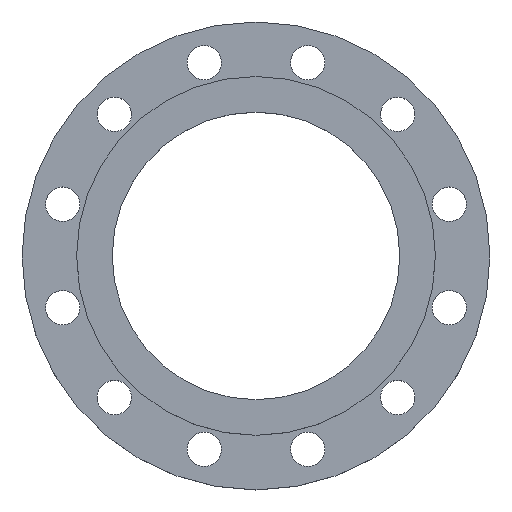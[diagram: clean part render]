
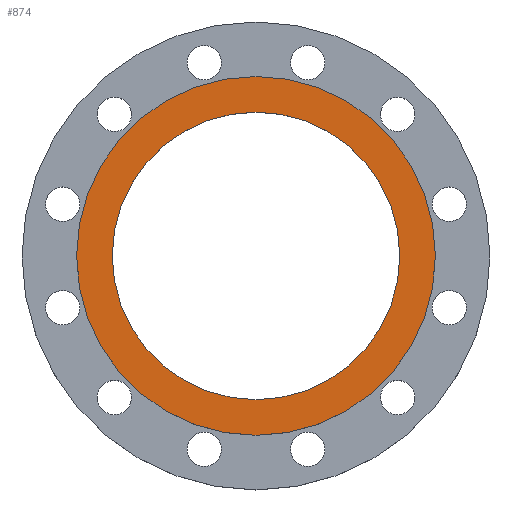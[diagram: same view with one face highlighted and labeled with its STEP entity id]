
A CAD part, top view. The second image highlights one B-rep face of the part: STEP entity #874.
In plain terms, the highlighted planar face has unit normal (0, 0, 1).
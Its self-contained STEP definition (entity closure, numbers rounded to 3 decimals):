
#1 = AXIS2_PLACEMENT_3D ( 'NONE', #372, #371, #370 ) ;
#130 = CARTESIAN_POINT ( 'NONE',  ( 172.5, 0., 30. ) ) ;
#178 = CIRCLE ( 'NONE', #180, 172.5 ) ;
#180 = AXIS2_PLACEMENT_3D ( 'NONE', #383, #380, #379 ) ;
#193 = CIRCLE ( 'NONE', #1, 138.25 ) ;
#209 = CARTESIAN_POINT ( 'NONE',  ( 138.25, 0., 30. ) ) ;
#237 = CIRCLE ( 'NONE', #271, 172.5 ) ;
#271 = AXIS2_PLACEMENT_3D ( 'NONE', #451, #450, #449 ) ;
#290 = DIRECTION ( 'NONE',  ( -1., 0., 0. ) ) ;
#291 = DIRECTION ( 'NONE',  ( 0., 0., -1. ) ) ;
#292 = CARTESIAN_POINT ( 'NONE',  ( 138.25, 0., 30. ) ) ;
#294 = PLANE ( 'NONE',  #308 ) ;
#295 = FACE_BOUND ( 'NONE', #1111, .T. ) ;
#296 = FACE_OUTER_BOUND ( 'NONE', #1055, .T. ) ;
#308 = AXIS2_PLACEMENT_3D ( 'NONE', #292, #291, #290 ) ;
#370 = DIRECTION ( 'NONE',  ( -1., 0., 0. ) ) ;
#371 = DIRECTION ( 'NONE',  ( 0., 0., -1. ) ) ;
#372 = CARTESIAN_POINT ( 'NONE',  ( 0., 0., 30. ) ) ;
#379 = DIRECTION ( 'NONE',  ( -1., 0., 0. ) ) ;
#380 = DIRECTION ( 'NONE',  ( 0., 0., -1. ) ) ;
#383 = CARTESIAN_POINT ( 'NONE',  ( 0., 0., 30. ) ) ;
#423 = CARTESIAN_POINT ( 'NONE',  ( -172.5, 0., 30. ) ) ;
#440 = CARTESIAN_POINT ( 'NONE',  ( -138.25, 0., 30. ) ) ;
#449 = DIRECTION ( 'NONE',  ( -1., 0., 0. ) ) ;
#450 = DIRECTION ( 'NONE',  ( 0., 0., -1. ) ) ;
#451 = CARTESIAN_POINT ( 'NONE',  ( 0., 0., 30. ) ) ;
#538 = DIRECTION ( 'NONE',  ( -1., 0., 0. ) ) ;
#539 = DIRECTION ( 'NONE',  ( 0., 0., -1. ) ) ;
#541 = CARTESIAN_POINT ( 'NONE',  ( 0., 0., 30. ) ) ;
#583 = CIRCLE ( 'NONE', #588, 138.25 ) ;
#586 = EDGE_CURVE ( 'NONE', #736, #992, #583, .T. ) ;
#588 = AXIS2_PLACEMENT_3D ( 'NONE', #541, #539, #538 ) ;
#731 = EDGE_CURVE ( 'NONE', #770, #1109, #237, .T. ) ;
#736 = VERTEX_POINT ( 'NONE', #440 ) ;
#770 = VERTEX_POINT ( 'NONE', #423 ) ;
#829 = EDGE_CURVE ( 'NONE', #1109, #770, #178, .T. ) ;
#836 = EDGE_CURVE ( 'NONE', #992, #736, #193, .T. ) ;
#874 = ADVANCED_FACE ( 'NONE', ( #296, #295 ), #294, .F. ) ;
#992 = VERTEX_POINT ( 'NONE', #209 ) ;
#1055 = EDGE_LOOP ( 'NONE', ( #1205, #1220 ) ) ;
#1109 = VERTEX_POINT ( 'NONE', #130 ) ;
#1111 = EDGE_LOOP ( 'NONE', ( #1222, #1223 ) ) ;
#1205 = ORIENTED_EDGE ( 'NONE', *, *, #731, .F. ) ;
#1220 = ORIENTED_EDGE ( 'NONE', *, *, #829, .F. ) ;
#1222 = ORIENTED_EDGE ( 'NONE', *, *, #586, .T. ) ;
#1223 = ORIENTED_EDGE ( 'NONE', *, *, #836, .T. ) ;
